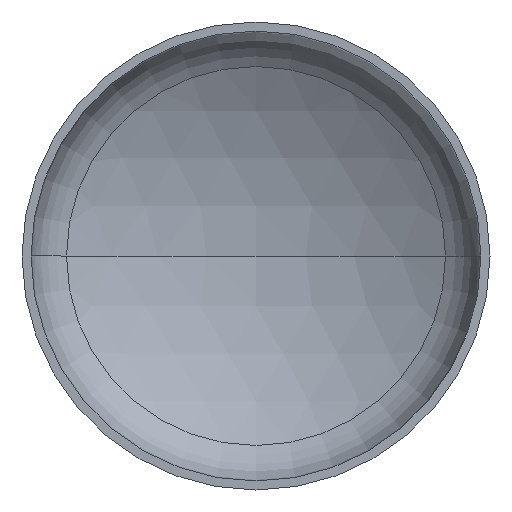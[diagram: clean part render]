
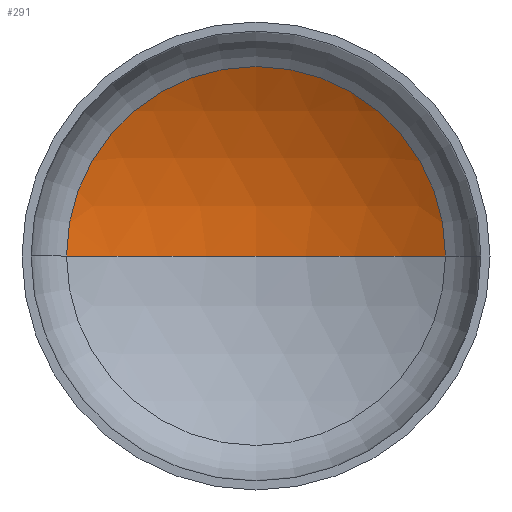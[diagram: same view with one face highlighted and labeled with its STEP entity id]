
A CAD part, front view. The second image highlights one B-rep face of the part: STEP entity #291.
In plain terms, the highlighted spherical face has radius 1200 mm.
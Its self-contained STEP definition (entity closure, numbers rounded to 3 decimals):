
#15 = AXIS2_PLACEMENT_3D ( 'NONE', #307, #246, #121 ) ;
#24 = VERTEX_POINT ( 'NONE', #98 ) ;
#37 = AXIS2_PLACEMENT_3D ( 'NONE', #361, #154, #313 ) ;
#38 = AXIS2_PLACEMENT_3D ( 'NONE', #183, #58, #112 ) ;
#39 = AXIS2_PLACEMENT_3D ( 'NONE', #218, #288, #60 ) ;
#53 = ORIENTED_EDGE ( 'NONE', *, *, #76, .T. ) ;
#58 = DIRECTION ( 'NONE',  ( 0., 0., -1. ) ) ;
#60 = DIRECTION ( 'NONE',  ( 1., 0., 0. ) ) ;
#72 = EDGE_CURVE ( 'NONE', #24, #106, #379, .T. ) ;
#75 = CARTESIAN_POINT ( 'NONE',  ( -607.423, 288.358, 0. ) ) ;
#76 = EDGE_CURVE ( 'NONE', #102, #24, #317, .T. ) ;
#79 = EDGE_CURVE ( 'NONE', #102, #106, #181, .T. ) ;
#98 = CARTESIAN_POINT ( 'NONE',  ( 607.423, 288.358, 0. ) ) ;
#102 = VERTEX_POINT ( 'NONE', #368 ) ;
#106 = VERTEX_POINT ( 'NONE', #75 ) ;
#112 = DIRECTION ( 'NONE',  ( -1., 0., 0. ) ) ;
#121 = DIRECTION ( 'NONE',  ( -1., 0., 0. ) ) ;
#138 = ORIENTED_EDGE ( 'NONE', *, *, #79, .F. ) ;
#154 = DIRECTION ( 'NONE',  ( 0., 0., 1. ) ) ;
#176 = ORIENTED_EDGE ( 'NONE', *, *, #72, .T. ) ;
#181 = CIRCLE ( 'NONE', #37, 1200. ) ;
#183 = CARTESIAN_POINT ( 'NONE',  ( 0., -746.552, 0. ) ) ;
#218 = CARTESIAN_POINT ( 'NONE',  ( 0., 288.358, 0. ) ) ;
#233 = FACE_OUTER_BOUND ( 'NONE', #369, .T. ) ;
#246 = DIRECTION ( 'NONE',  ( 0., 0., -1. ) ) ;
#288 = DIRECTION ( 'NONE',  ( 0., -1., 0. ) ) ;
#291 = ADVANCED_FACE ( 'NONE', ( #233 ), #295, .F. ) ;
#295 = SPHERICAL_SURFACE ( 'NONE', #15, 1200. ) ;
#307 = CARTESIAN_POINT ( 'NONE',  ( 0., -746.552, 0. ) ) ;
#313 = DIRECTION ( 'NONE',  ( 1., 0., 0. ) ) ;
#317 = CIRCLE ( 'NONE', #38, 1200. ) ;
#361 = CARTESIAN_POINT ( 'NONE',  ( 0., -746.552, 0. ) ) ;
#368 = CARTESIAN_POINT ( 'NONE',  ( 0., 453.448, 0. ) ) ;
#369 = EDGE_LOOP ( 'NONE', ( #138, #53, #176 ) ) ;
#379 = CIRCLE ( 'NONE', #39, 607.423 ) ;
